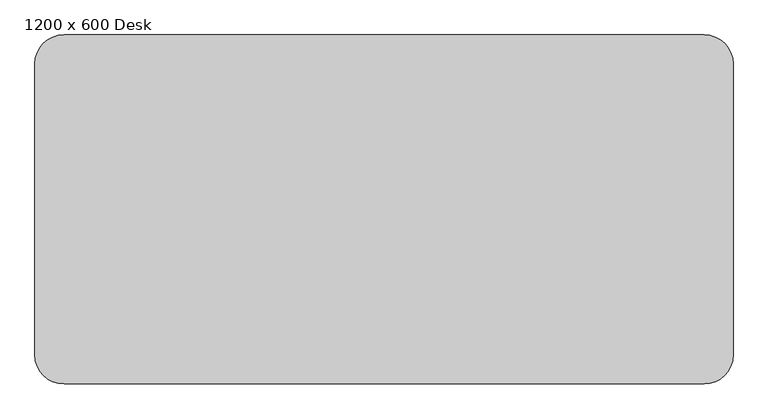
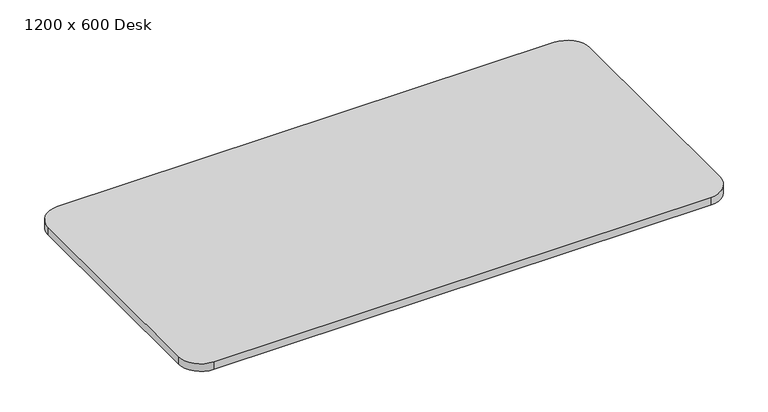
"""IFC4 building model written with IfcOpenShell, lengths in millimetres: furniture geometry, DBLTD_Sixteen3_PrivacyScreens_Artus_Desk : 1200 x 600 Desk."""

from ifc_helpers import new_model, si_unit, point, frame, frame_2d, origin, place, context, project, spatial, polyline, circle_curve, trimmed, segment, composite_curve, outline, extrude, source, transform, mapped, element, save


def furniture_1200_x_600_desk_1b4974f5(model_context):
    return source(origin(), model_context, "Body", "SweptSolid", [
        extrude(outline(composite_curve([segment(trimmed(circle_curve(frame_2d((550.0, 1070.0)), 50.0), [point((550.0, 1120.0))], [point((600.0, 1070.0))], False, "CARTESIAN"), True, "CONTINUOUS"), segment(polyline([(600.0, 1070.0), (600.0, 570.0)]), True, "CONTINUOUS"), segment(trimmed(circle_curve(frame_2d((550.0, 570.0)), 50.0), [point((600.0, 570.0))], [point((550.0, 520.0))], False, "CARTESIAN"), True, "CONTINUOUS"), segment(polyline([(550.0, 520.0), (-550.0, 520.0)]), True, "CONTINUOUS"), segment(trimmed(circle_curve(frame_2d((-550.0, 570.0)), 50.0), [point((-550.0, 520.0))], [point((-600.0, 570.0))], False, "CARTESIAN"), True, "CONTINUOUS"), segment(polyline([(-600.0, 570.0), (-600.0, 1070.0)]), True, "CONTINUOUS"), segment(trimmed(circle_curve(frame_2d((-550.0, 1070.0)), 50.0), [point((-600.0, 1070.0))], [point((-550.0, 1120.0))], False, "CARTESIAN"), True, "CONTINUOUS"), segment(polyline([(-550.0, 1120.0), (550.0, 1120.0)]), True, "CONTINUOUS")], self_intersect=False)), frame((0.0, 0.0, 732.0), z_axis=(0.0, 0.0, 1.0), x_axis=(1.0, 0.0, 0.0)), (0.0, 0.0, 1.0), 18.0),
    ])


if __name__ == "__main__":
    model = new_model("IFC4")
    model_context = context("Model", 3, world=origin())
    ifc_project = project(units=[si_unit("LENGTHUNIT", "METRE", prefix="MILLI")], contexts=[model_context])
    site = spatial("IfcSite", under=ifc_project)
    building = spatial("IfcBuilding", under=site)
    placement = place(None, origin())
    furniture_1200_x_600_desk_shape = furniture_1200_x_600_desk_1b4974f5(model_context)
    element("IfcFurniture", 1, ObjectType="DBLTD_Sixteen3_PrivacyScreens_Artus_Desk : 1200 x 600 Desk", at=placement, inside=building, context=model_context, shape_type="MappedRepresentation", body=[
        mapped(furniture_1200_x_600_desk_shape, transform((0.0, 0.0, 0.0), x_axis=(1.0, 0.0, 0.0), y_axis=(0.0, 1.0, 0.0), z_axis=(0.0, 0.0, 1.0))),
    ])
    save(model, "model.ifc")
